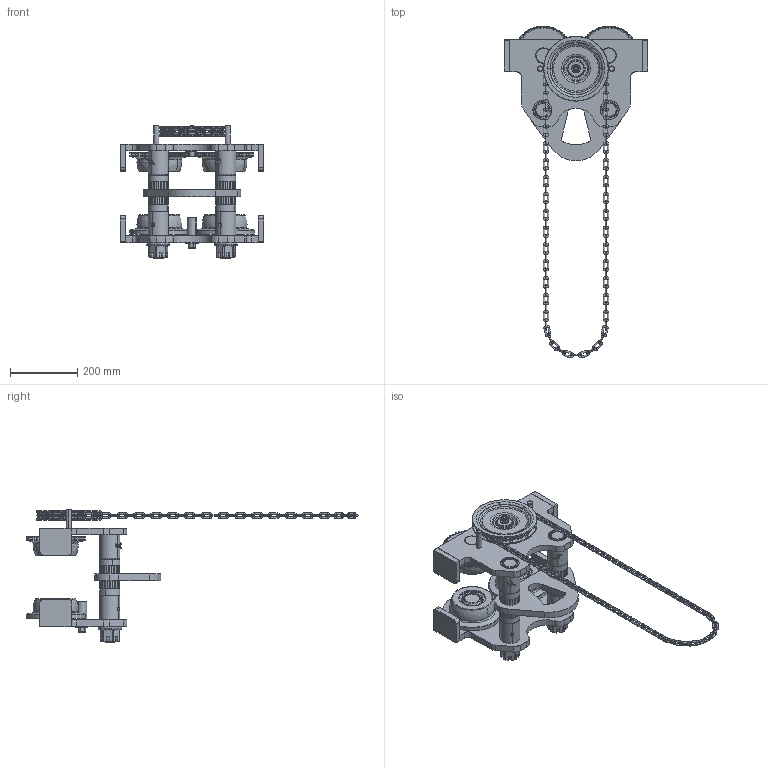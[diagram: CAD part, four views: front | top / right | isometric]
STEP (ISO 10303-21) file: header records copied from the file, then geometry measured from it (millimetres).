
FILE_DESCRIPTION (( 'STEP AP203' ), '1' );
FILE_NAME ('10T忒嶺苤陬.STEP', '2023-12-09T04:38:19', ( '' ), ( '' ), 'SwSTEP 2.0', 'SolidWorks 2021', '' );
FILE_SCHEMA (( 'CONFIG_CONTROL_DESIGN' ));
Length unit declared in the file: millimetre
Products named in the file (1): 10T忒嶺苤陬
Bounding box: 426 x 985.47 x 396 mm (x, y, z)
Surface area: 1253127.5 mm2 (no closed solid volume)
Topology: 0 solids, 180 shells, 2145 faces, 6593 edges, 4336 vertices
Faces by surface type: cylinder 875, torus 629, plane 236, bspline 217, cone 180, sphere 8
Entity records: 89412 total; most frequent: CARTESIAN_POINT 33124, DIRECTION 11836, ORIENTED_EDGE 11211, EDGE_CURVE 6571, AXIS2_PLACEMENT_3D 5053, VERTEX_POINT 4324, CIRCLE 3124, EDGE_LOOP 2232
